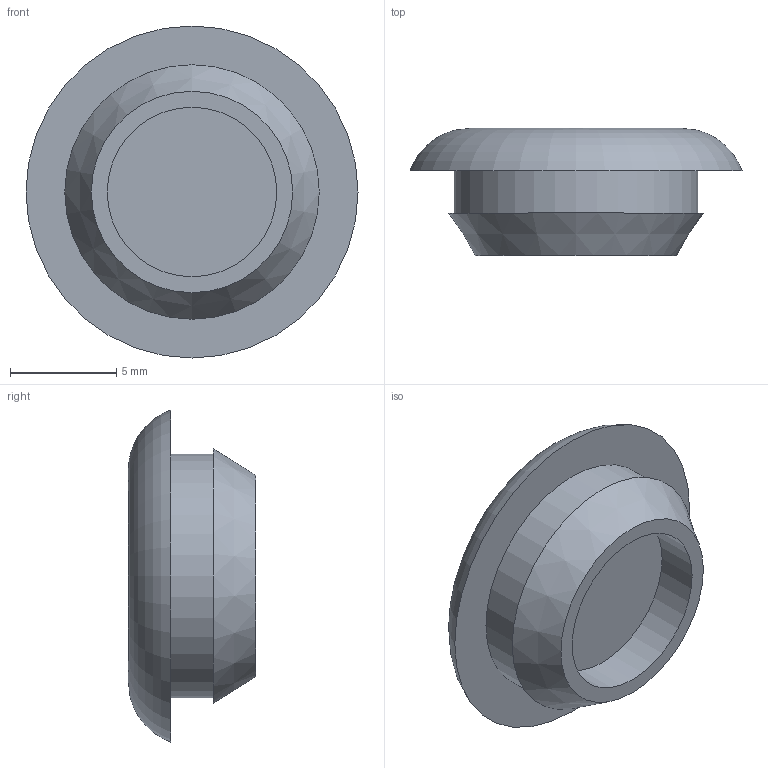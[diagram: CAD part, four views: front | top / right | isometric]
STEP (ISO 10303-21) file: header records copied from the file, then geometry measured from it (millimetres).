
FILE_DESCRIPTION (( 'STEP AP214' ), '1' );
FILE_NAME ('F21711.step', '2024-12-03T16:15:29', ( '' ), ( '' ), 'SwSTEP 2.0', 'SolidWorks 2023', '' );
FILE_SCHEMA (( 'AUTOMOTIVE_DESIGN' ));
Length unit declared in the file: millimetre
Products named in the file (1): F21711
Bounding box: 15.66 x 6 x 15.66 mm (x, y, z)
Volume: 605.7 mm3; surface area: 603.4 mm2
Topology: 1 solids, 1 shells, 9 faces, 15 edges, 11 vertices
Faces by surface type: plane 5, cylinder 2, torus 1, cone 1
Full cylindrical faces by diameter (mm): 8 x1, 11.5 x1
Entity records: 197 total; most frequent: DIRECTION 36, CARTESIAN_POINT 26, AXIS2_PLACEMENT_3D 18, EDGE_LOOP 16, ORIENTED_EDGE 16, FACE_OUTER_BOUND 12, ADVANCED_FACE 9, EDGE_CURVE 8
